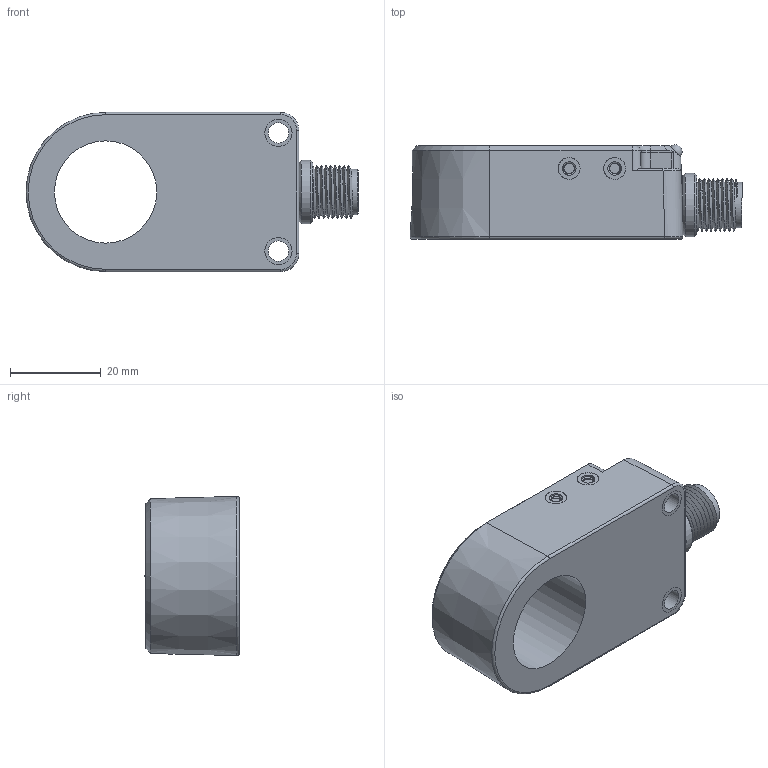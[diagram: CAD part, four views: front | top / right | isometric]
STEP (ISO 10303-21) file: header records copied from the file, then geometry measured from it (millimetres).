
FILE_DESCRIPTION(/* description */ (''),/* implementation_level */ '2;1');
FILE_NAME(/* name */ 'F:\HUAYIFENG\02)HUAYIFENG_3D_MODE\新环型\newhuanxing\3D_PC\PC22-C2.stp',/* time_stamp */ '2019-06-19T20:19:56+08:00',/* author */ ('fengjiarun'),/* organization */ (''),/* preprocessor_version */ 'ST-DEVELOPER v16.5',/* originating_system */ 'Autodesk Inventor 2017',/* authorisation */ '');
FILE_SCHEMA (('AUTOMOTIVE_DESIGN { 1 0 10303 214 3 1 1 }'));
Length unit declared in the file: millimetre
Products named in the file (1): 零件19
Bounding box: 72.99 x 20.73 x 35 mm (x, y, z)
Volume: 30562 mm3; surface area: 9562.8 mm2
Topology: 1 solids, 1 shells, 207 faces, 503 edges, 320 vertices
Faces by surface type: plane 67, cylinder 62, bspline 53, torus 18, cone 5, sphere 2
Full cylindrical faces by diameter (mm): 1.5 x4, 3 x3, 3.05 x1, 4.5 x2, 4.8 x2, 8 x1, 10 x1, 14 x1, 22.5 x3
Entity records: 11893 total; most frequent: CARTESIAN_POINT 7279, ORIENTED_EDGE 916, DIRECTION 829, EDGE_CURVE 458, AXIS2_PLACEMENT_3D 334, VERTEX_POINT 300, EDGE_LOOP 256, STYLED_ITEM 206
